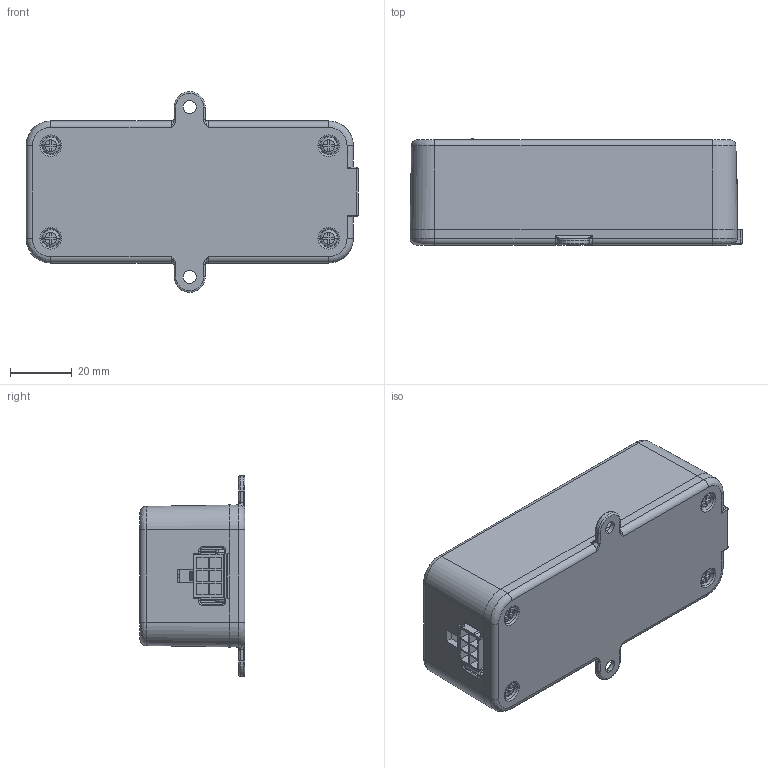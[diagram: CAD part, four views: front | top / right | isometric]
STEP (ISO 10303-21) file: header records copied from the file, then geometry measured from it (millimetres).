
FILE_DESCRIPTION (( 'STEP AP203' ), '1' );
FILE_NAME ('CF02_xuanran_20260511-1.STEP', '2026-05-11T05:56:10', ( '' ), ( '' ), 'SwSTEP 2.0', 'SolidWorks 2023', '' );
FILE_SCHEMA (( 'CONFIG_CONTROL_DESIGN' ));
Length unit declared in the file: millimetre
Products named in the file (1): CF02_xuanran_20260511-1
Bounding box: 107.5 x 34.3 x 65 mm (x, y, z)
Volume: 47507.9 mm3; surface area: 52980.8 mm2
Topology: 1 solids, 14 shells, 707 faces, 1811 edges, 1147 vertices
Faces by surface type: bspline 707
Entity records: 24101 total; most frequent: CARTESIAN_POINT 9205, ORIENTED_EDGE 3618, DIRECTION 2148, EDGE_CURVE 1809, VERTEX_POINT 1147, VECTOR 1138, LINE 1138, EDGE_LOOP 772
